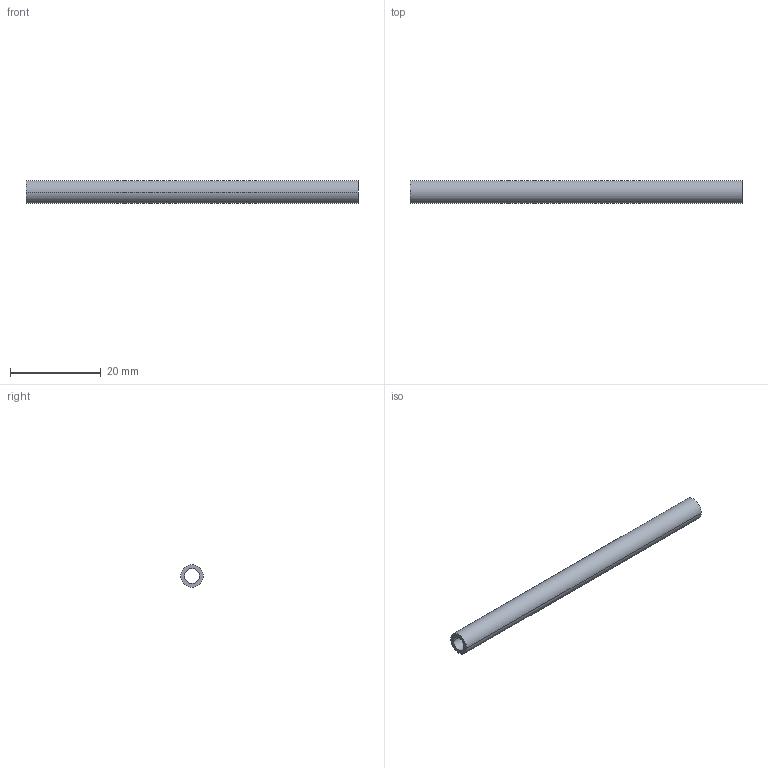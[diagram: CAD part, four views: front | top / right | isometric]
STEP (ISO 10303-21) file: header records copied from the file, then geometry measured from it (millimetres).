
FILE_DESCRIPTION(/* description */ ('(C) Elphel, Inc. 2026. Licensed under CERN OHL v.1.1 or later, see http://ohwr.org/cernohl'),/* implementation_level */ '2;1');
FILE_NAME(/* name */ '0393-18-85.stp',/* time_stamp */ '2026-08-12T11:07:32-07:00',/* author */ (''),/* organization */ ('Elphel, Inc'),/* preprocessor_version */ 'VariCAD 2020-1.02',/* originating_system */ 'VariCAD 2020-1.02; kernel version (20180118)',/* authorisation */ '');
FILE_SCHEMA(('AUTOMOTIVE_DESIGN'));
Length unit declared in the file: millimetre
Products named in the file (2): 0393-18-85
Assembly tree (1 placements, depth 2):
  0393-18-85
    0393-18-85
Bounding box: 73 x 5 x 5 mm (x, y, z)
Volume: 809 mm3; surface area: 1925.7 mm2
Topology: 1 solids, 1 shells, 6 faces, 12 edges, 8 vertices
Faces by surface type: cylinder 4, plane 2
Entity records: 222 total; most frequent: DIRECTION 40, CARTESIAN_POINT 30, ORIENTED_EDGE 24, AXIS2_PLACEMENT_3D 18, EDGE_CURVE 12, EDGE_LOOP 8, CIRCLE 8, VERTEX_POINT 8
